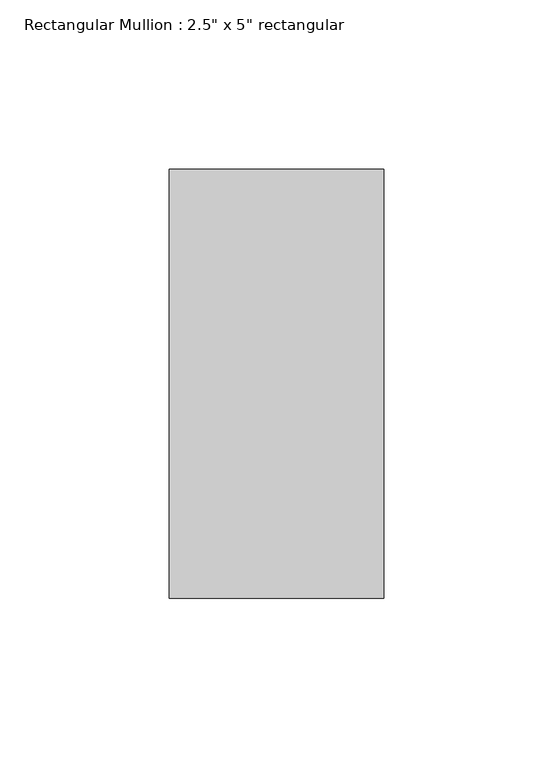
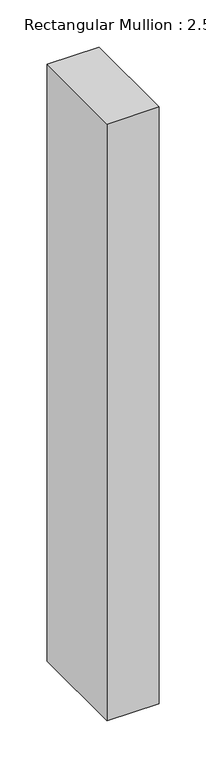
"""IFC4 building model written with IfcOpenShell, lengths in millimetres: member geometry."""

from ifc_helpers import new_model, si_unit, frame, origin, place, context, project, spatial, polyline, outline, extrude, source, transform, mapped, element, save


def member_20923bb3(model_context):
    return source(origin(), model_context, "Body", "SweptSolid", [
        extrude(outline(polyline([(31.75, 63.5), (31.75, -63.5), (-31.75, -63.5), (-31.75, 63.5), (31.75, 63.5)])), frame((0.0, 0.0, -771.0473692), z_axis=(0.0, 0.0, 1.0), x_axis=(1.0, 0.0, 0.0)), (0.0, 0.0, 1.0), 771.0473692),
    ])


if __name__ == "__main__":
    model = new_model("IFC4")
    model_context = context("Model", 3, world=origin())
    ifc_project = project(units=[si_unit("LENGTHUNIT", "METRE", prefix="MILLI")], contexts=[model_context])
    site = spatial("IfcSite", under=ifc_project)
    building = spatial("IfcBuilding", under=site)
    placement = place(None, origin())
    member_shape = member_20923bb3(model_context)
    element("IfcMember", 1, ObjectType="Rectangular Mullion : 2.5\" x 5\" rectangular", at=placement, inside=building, context=model_context, shape_type="MappedRepresentation", body=[
        mapped(member_shape, transform((0.0, 0.0, 0.0), x_axis=(1.0, 0.0, 0.0), y_axis=(0.0, 1.0, 0.0), z_axis=(0.0, 0.0, 1.0))),
    ])
    save(model, "model.ifc")
